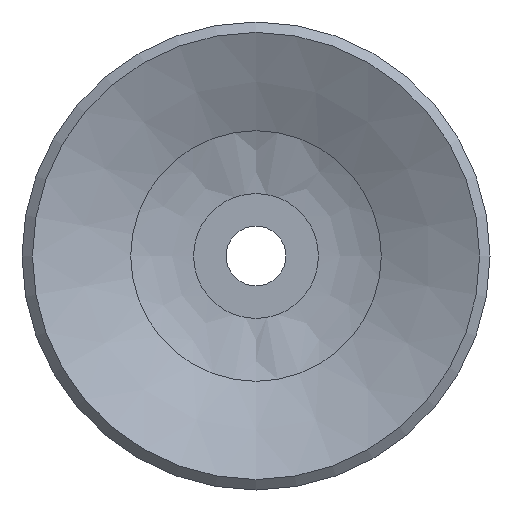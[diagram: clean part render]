
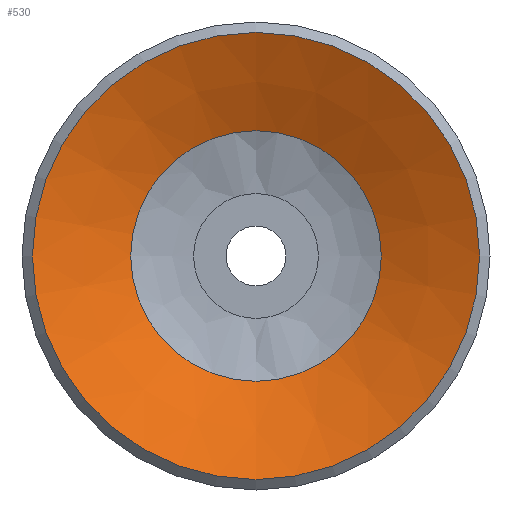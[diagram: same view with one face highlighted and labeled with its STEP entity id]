
A CAD part, front view. The second image highlights one B-rep face of the part: STEP entity #530.
In plain terms, the highlighted conical face has half-angle 65.056 degrees and reference radius 3.2 mm.
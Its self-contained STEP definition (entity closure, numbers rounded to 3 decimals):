
#530=ADVANCED_FACE('',(#750,#751),#752,.F.);
#750=FACE_BOUND('',#1029,.T.);
#751=FACE_OUTER_BOUND('',#1030,.T.);
#752=CONICAL_SURFACE('',#1031,3.2,1.135);
#1029=EDGE_LOOP('',(#1641));
#1030=EDGE_LOOP('',(#1642));
#1031=AXIS2_PLACEMENT_3D('',#1643,#1644,#1645);
#1641=ORIENTED_EDGE('',*,*,#1958,.T.);
#1642=ORIENTED_EDGE('',*,*,#1959,.T.);
#1643=CARTESIAN_POINT('',(0.0,7.896,0.0));
#1644=DIRECTION('',(-0.0,-1.0,0.));
#1645=DIRECTION('',(0.0,0.,-1.0));
#1958=EDGE_CURVE('',#2225,#2225,#2226,.T.);
#1959=EDGE_CURVE('',#2227,#2227,#2228,.T.);
#2225=VERTEX_POINT('',#2837);
#2226=CIRCLE('',#2838,4.203);
#2227=VERTEX_POINT('',#2839);
#2228=CIRCLE('',#2840,7.5);
#2837=CARTESIAN_POINT('',(0.0,7.43,-4.203));
#2838=AXIS2_PLACEMENT_3D('',#3142,#3143,#3144);
#2839=CARTESIAN_POINT('',(0.0,5.896,-7.5));
#2840=AXIS2_PLACEMENT_3D('',#3145,#3146,#3147);
#3142=CARTESIAN_POINT('',(0.0,7.43,0.0));
#3143=DIRECTION('',(0.0,1.0,0.));
#3144=DIRECTION('',(0.0,0.,-1.0));
#3145=CARTESIAN_POINT('',(0.0,5.896,0.0));
#3146=DIRECTION('',(0.0,-1.0,0.));
#3147=DIRECTION('',(0.0,0.,-1.0));
